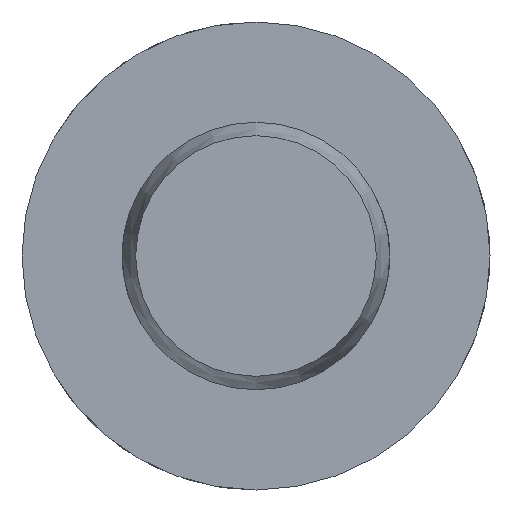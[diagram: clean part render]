
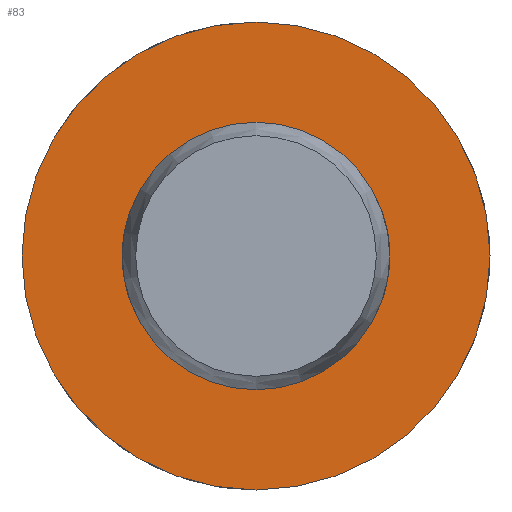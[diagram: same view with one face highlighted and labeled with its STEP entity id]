
A CAD part, left-side view. The second image highlights one B-rep face of the part: STEP entity #83.
In plain terms, the highlighted planar face has unit normal (-1, 0, 0).
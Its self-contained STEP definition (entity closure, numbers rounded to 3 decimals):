
#83 = ADVANCED_FACE( '', ( #128, #129 ), #130, .F. );
#128 = FACE_OUTER_BOUND( '', #204, .T. );
#129 = FACE_BOUND( '', #205, .T. );
#130 = PLANE( '', #206 );
#204 = EDGE_LOOP( '', ( #318 ) );
#205 = EDGE_LOOP( '', ( #319 ) );
#206 = AXIS2_PLACEMENT_3D( '', #320, #321, #322 );
#318 = ORIENTED_EDGE( '', *, *, #481, .F. );
#319 = ORIENTED_EDGE( '', *, *, #471, .T. );
#320 = CARTESIAN_POINT( '', ( 58.2, 4., 0. ) );
#321 = DIRECTION( '', ( 1., 0., 0. ) );
#322 = DIRECTION( '', ( 0., 0., -1. ) );
#471 = EDGE_CURVE( '', #541, #541, #542, .T. );
#481 = EDGE_CURVE( '', #559, #559, #560, .T. );
#541 = VERTEX_POINT( '', #726 );
#542 = CIRCLE( '', #727, 4. );
#559 = VERTEX_POINT( '', #861 );
#560 = CIRCLE( '', #862, 7. );
#726 = CARTESIAN_POINT( '', ( 58.2, 0., -4. ) );
#727 = AXIS2_PLACEMENT_3D( '', #923, #924, #925 );
#861 = CARTESIAN_POINT( '', ( 58.2, 0., -7. ) );
#862 = AXIS2_PLACEMENT_3D( '', #944, #945, #946 );
#923 = CARTESIAN_POINT( '', ( 58.2, 0., 0. ) );
#924 = DIRECTION( '', ( 1., 0., 0. ) );
#925 = DIRECTION( '', ( 0., 0., -1. ) );
#944 = CARTESIAN_POINT( '', ( 58.2, 0., 0. ) );
#945 = DIRECTION( '', ( 1., 0., 0. ) );
#946 = DIRECTION( '', ( 0., 0., -1. ) );
